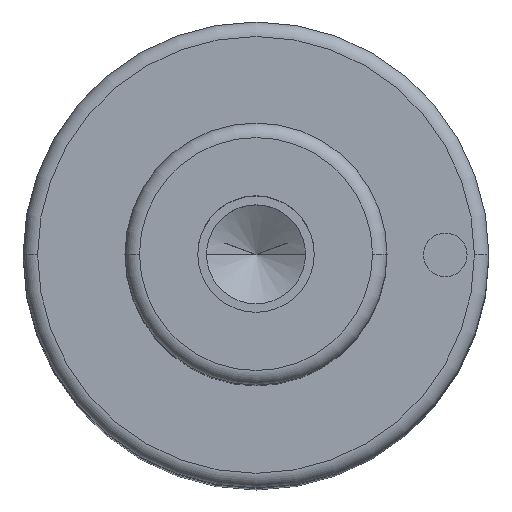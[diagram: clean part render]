
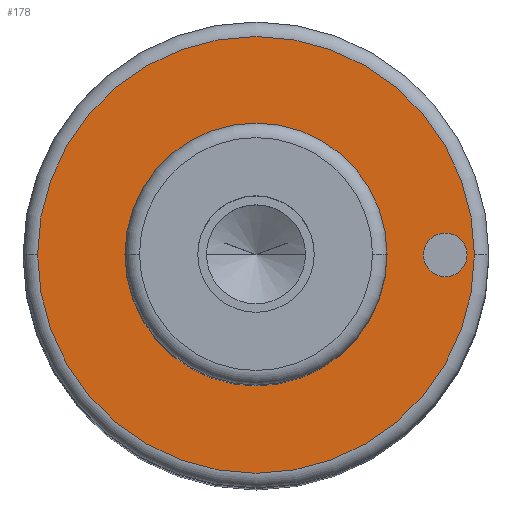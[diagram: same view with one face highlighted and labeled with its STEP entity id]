
A CAD part, top view. The second image highlights one B-rep face of the part: STEP entity #178.
In plain terms, the highlighted planar face has unit normal (0, 0, 1).
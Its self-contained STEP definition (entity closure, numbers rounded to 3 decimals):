
#105=PLANE('',#866);
#115=FACE_BOUND('',#283,.T.);
#116=FACE_BOUND('',#284,.T.);
#117=FACE_BOUND('',#285,.T.);
#178=ADVANCED_FACE('',(#115,#116,#117),#105,.T.);
#283=EDGE_LOOP('',(#473,#474));
#284=EDGE_LOOP('',(#475,#476));
#285=EDGE_LOOP('',(#477,#478));
#333=CIRCLE('',#834,9.);
#334=CIRCLE('',#836,9.);
#338=CIRCLE('',#841,15.);
#339=CIRCLE('',#843,15.);
#351=CIRCLE('',#864,1.5);
#352=CIRCLE('',#865,1.5);
#473=ORIENTED_EDGE('',*,*,#666,.F.);
#474=ORIENTED_EDGE('',*,*,#667,.F.);
#475=ORIENTED_EDGE('',*,*,#685,.F.);
#476=ORIENTED_EDGE('',*,*,#686,.F.);
#477=ORIENTED_EDGE('',*,*,#662,.T.);
#478=ORIENTED_EDGE('',*,*,#660,.T.);
#590=VERTEX_POINT('',#1233);
#591=VERTEX_POINT('',#1235);
#592=VERTEX_POINT('',#1241);
#595=VERTEX_POINT('',#1246);
#604=VERTEX_POINT('',#1285);
#605=VERTEX_POINT('',#1286);
#660=EDGE_CURVE('',#591,#590,#333,.T.);
#662=EDGE_CURVE('',#590,#591,#334,.T.);
#666=EDGE_CURVE('',#595,#592,#338,.T.);
#667=EDGE_CURVE('',#592,#595,#339,.T.);
#685=EDGE_CURVE('',#604,#605,#351,.T.);
#686=EDGE_CURVE('',#605,#604,#352,.T.);
#834=AXIS2_PLACEMENT_3D('',#1234,#985,#986);
#836=AXIS2_PLACEMENT_3D('',#1238,#990,#991);
#841=AXIS2_PLACEMENT_3D('',#1247,#1000,#1001);
#843=AXIS2_PLACEMENT_3D('',#1249,#1004,#1005);
#864=AXIS2_PLACEMENT_3D('',#1284,#1052,#1053);
#865=AXIS2_PLACEMENT_3D('',#1287,#1054,#1055);
#866=AXIS2_PLACEMENT_3D('',#1288,#1056,#1057);
#985=DIRECTION('',(0.,0.,-1.));
#986=DIRECTION('',(0.,1.,0.));
#990=DIRECTION('',(0.,0.,-1.));
#991=DIRECTION('',(0.,-1.,0.));
#1000=DIRECTION('',(0.,0.,-1.));
#1001=DIRECTION('',(0.,1.,0.));
#1004=DIRECTION('',(0.,0.,-1.));
#1005=DIRECTION('',(0.,-1.,0.));
#1052=DIRECTION('',(0.,0.,1.));
#1053=DIRECTION('',(0.,1.,0.));
#1054=DIRECTION('',(0.,0.,1.));
#1055=DIRECTION('',(0.,-1.,0.));
#1056=DIRECTION('',(0.,0.,1.));
#1057=DIRECTION('',(0.,-1.,0.));
#1233=CARTESIAN_POINT('',(-9.,0.,86.));
#1234=CARTESIAN_POINT('',(0.,0.,86.));
#1235=CARTESIAN_POINT('',(9.,0.,86.));
#1238=CARTESIAN_POINT('',(0.,0.,86.));
#1241=CARTESIAN_POINT('',(-15.,0.,86.));
#1246=CARTESIAN_POINT('',(15.,0.,86.));
#1247=CARTESIAN_POINT('',(0.,0.,86.));
#1249=CARTESIAN_POINT('',(0.,0.,86.));
#1284=CARTESIAN_POINT('',(13.,0.,86.));
#1285=CARTESIAN_POINT('',(11.5,0.,86.));
#1286=CARTESIAN_POINT('',(14.5,0.,86.));
#1287=CARTESIAN_POINT('',(13.,0.,86.));
#1288=CARTESIAN_POINT('',(0.,0.,86.));
